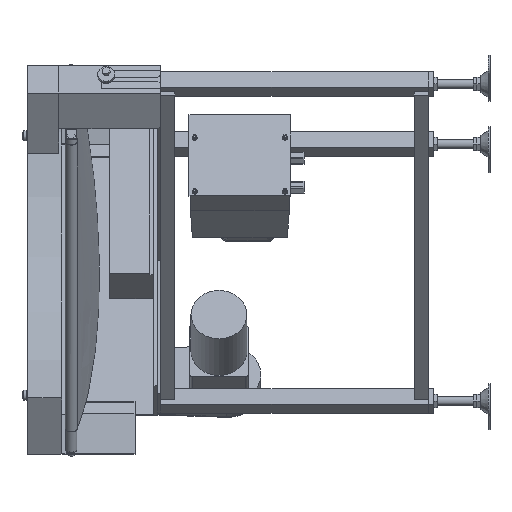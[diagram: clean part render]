
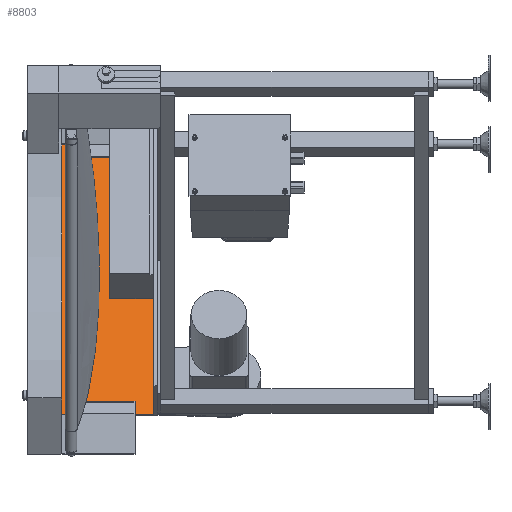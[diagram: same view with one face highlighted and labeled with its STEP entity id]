
A CAD part, left-side view. The second image highlights one B-rep face of the part: STEP entity #8803.
In plain terms, the highlighted planar face has unit normal (-0.866, 0, 0.5).
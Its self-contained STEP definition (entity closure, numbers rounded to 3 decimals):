
#520 = DIRECTION ( 'NONE',  ( 0.866, 0., -0.5 ) ) ;
#1063 = AXIS2_PLACEMENT_3D ( 'NONE', #21339, #39721, #17548 ) ;
#2300 = CARTESIAN_POINT ( 'NONE',  ( 794.695, -155.5, -141.275 ) ) ;
#2562 = EDGE_CURVE ( 'NONE', #33580, #33580, #7818, .T. ) ;
#3945 = FACE_BOUND ( 'NONE', #15723, .T. ) ;
#4200 = AXIS2_PLACEMENT_3D ( 'NONE', #30324, #520, #26754 ) ;
#5235 = CARTESIAN_POINT ( 'NONE',  ( 794.695, 63.5, -141.275 ) ) ;
#5485 = EDGE_CURVE ( 'NONE', #34787, #34787, #13598, .T. ) ;
#7818 = CIRCLE ( 'NONE', #1063, 3. ) ;
#8414 = VERTEX_POINT ( 'NONE', #30858 ) ;
#8729 = DIRECTION ( 'NONE',  ( 0.5, 0., 0.866 ) ) ;
#8803 = ADVANCED_FACE ( 'NONE', ( #46666, #43763, #3945, #30186, #18556 ), #28636, .F. ) ;
#9186 = DIRECTION ( 'NONE',  ( 0.5, 0., 0.866 ) ) ;
#9271 = CARTESIAN_POINT ( 'NONE',  ( 519.695, 63.5, -617.589 ) ) ;
#10530 = LINE ( 'NONE', #13141, #32198 ) ;
#10588 = EDGE_CURVE ( 'NONE', #28863, #28863, #26518, .T. ) ;
#11343 = EDGE_LOOP ( 'NONE', ( #39967, #45803, #34757, #27821 ) ) ;
#13141 = CARTESIAN_POINT ( 'NONE',  ( 519.695, 63.5, -617.589 ) ) ;
#13598 = CIRCLE ( 'NONE', #47066, 3. ) ;
#14969 = CARTESIAN_POINT ( 'NONE',  ( 611.195, 39.5, -459.106 ) ) ;
#15723 = EDGE_LOOP ( 'NONE', ( #31621 ) ) ;
#16070 = VECTOR ( 'NONE', #32563, 1000. ) ;
#16812 = DIRECTION ( 'NONE',  ( 0., -1., 0. ) ) ;
#17548 = DIRECTION ( 'NONE',  ( -0.5, 0., -0.866 ) ) ;
#18556 = FACE_OUTER_BOUND ( 'NONE', #11343, .T. ) ;
#18571 = EDGE_CURVE ( 'NONE', #20122, #29191, #10530, .T. ) ;
#20122 = VERTEX_POINT ( 'NONE', #9271 ) ;
#20526 = ORIENTED_EDGE ( 'NONE', *, *, #25150, .T. ) ;
#21339 = CARTESIAN_POINT ( 'NONE',  ( 773.195, -99.5, -178.514 ) ) ;
#24473 = LINE ( 'NONE', #42206, #42783 ) ;
#25150 = EDGE_CURVE ( 'NONE', #8414, #8414, #45698, .T. ) ;
#26518 = CIRCLE ( 'NONE', #39548, 3. ) ;
#26754 = DIRECTION ( 'NONE',  ( -0.5, 0., -0.866 ) ) ;
#27821 = ORIENTED_EDGE ( 'NONE', *, *, #44932, .T. ) ;
#27982 = VERTEX_POINT ( 'NONE', #38857 ) ;
#28085 = LINE ( 'NONE', #5235, #46890 ) ;
#28636 = PLANE ( 'NONE',  #29876 ) ;
#28863 = VERTEX_POINT ( 'NONE', #34981 ) ;
#29191 = VERTEX_POINT ( 'NONE', #31619 ) ;
#29440 = EDGE_LOOP ( 'NONE', ( #32602 ) ) ;
#29876 = AXIS2_PLACEMENT_3D ( 'NONE', #36212, #43801, #40368 ) ;
#30095 = EDGE_LOOP ( 'NONE', ( #20526 ) ) ;
#30186 = FACE_BOUND ( 'NONE', #29440, .T. ) ;
#30324 = CARTESIAN_POINT ( 'NONE',  ( 703.195, -99.5, -299.757 ) ) ;
#30858 = CARTESIAN_POINT ( 'NONE',  ( 701.695, -99.5, -302.355 ) ) ;
#31619 = CARTESIAN_POINT ( 'NONE',  ( 794.695, 63.5, -141.275 ) ) ;
#31621 = ORIENTED_EDGE ( 'NONE', *, *, #5485, .T. ) ;
#32198 = VECTOR ( 'NONE', #9186, 1000. ) ;
#32563 = DIRECTION ( 'NONE',  ( 0., -1., 0. ) ) ;
#32602 = ORIENTED_EDGE ( 'NONE', *, *, #2562, .T. ) ;
#32773 = DIRECTION ( 'NONE',  ( -0.5, 0., -0.866 ) ) ;
#33580 = VERTEX_POINT ( 'NONE', #37836 ) ;
#34757 = ORIENTED_EDGE ( 'NONE', *, *, #40916, .T. ) ;
#34787 = VERTEX_POINT ( 'NONE', #45498 ) ;
#34981 = CARTESIAN_POINT ( 'NONE',  ( 609.695, 39.5, -461.704 ) ) ;
#36212 = CARTESIAN_POINT ( 'NONE',  ( 519.695, 63.5, -617.589 ) ) ;
#36457 = EDGE_LOOP ( 'NONE', ( #45641 ) ) ;
#36742 = CARTESIAN_POINT ( 'NONE',  ( 541.195, 39.5, -580.35 ) ) ;
#37224 = DIRECTION ( 'NONE',  ( -0.5, 0., -0.866 ) ) ;
#37836 = CARTESIAN_POINT ( 'NONE',  ( 771.695, -99.5, -181.112 ) ) ;
#38857 = CARTESIAN_POINT ( 'NONE',  ( 519.695, -155.5, -617.589 ) ) ;
#39478 = EDGE_CURVE ( 'NONE', #29191, #44600, #28085, .T. ) ;
#39548 = AXIS2_PLACEMENT_3D ( 'NONE', #14969, #41178, #37224 ) ;
#39721 = DIRECTION ( 'NONE',  ( 0.866, 0., -0.5 ) ) ;
#39967 = ORIENTED_EDGE ( 'NONE', *, *, #39478, .F. ) ;
#40368 = DIRECTION ( 'NONE',  ( 0., 1., 0. ) ) ;
#40382 = DIRECTION ( 'NONE',  ( 0.866, 0., -0.5 ) ) ;
#40916 = EDGE_CURVE ( 'NONE', #20122, #27982, #45342, .T. ) ;
#41178 = DIRECTION ( 'NONE',  ( 0.866, 0., -0.5 ) ) ;
#42206 = CARTESIAN_POINT ( 'NONE',  ( 519.695, -155.5, -617.589 ) ) ;
#42783 = VECTOR ( 'NONE', #8729, 1000. ) ;
#43763 = FACE_BOUND ( 'NONE', #36457, .T. ) ;
#43801 = DIRECTION ( 'NONE',  ( 0.866, 0., -0.5 ) ) ;
#44600 = VERTEX_POINT ( 'NONE', #2300 ) ;
#44932 = EDGE_CURVE ( 'NONE', #27982, #44600, #24473, .T. ) ;
#45342 = LINE ( 'NONE', #47375, #16070 ) ;
#45498 = CARTESIAN_POINT ( 'NONE',  ( 539.695, 39.5, -582.948 ) ) ;
#45641 = ORIENTED_EDGE ( 'NONE', *, *, #10588, .T. ) ;
#45698 = CIRCLE ( 'NONE', #4200, 3. ) ;
#45803 = ORIENTED_EDGE ( 'NONE', *, *, #18571, .F. ) ;
#46666 = FACE_BOUND ( 'NONE', #30095, .T. ) ;
#46890 = VECTOR ( 'NONE', #16812, 1000. ) ;
#47066 = AXIS2_PLACEMENT_3D ( 'NONE', #36742, #40382, #32773 ) ;
#47375 = CARTESIAN_POINT ( 'NONE',  ( 519.695, 63.5, -617.589 ) ) ;
